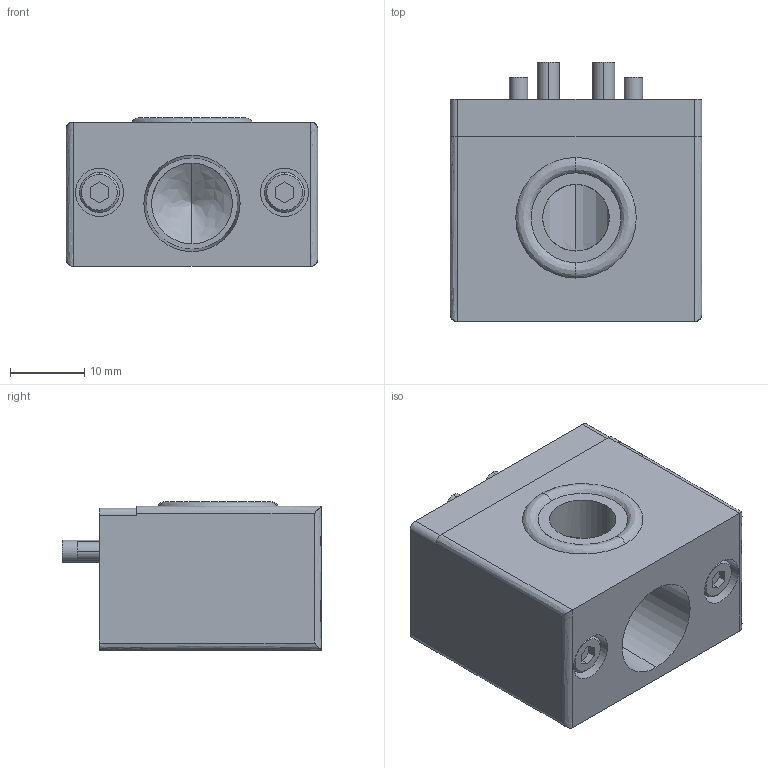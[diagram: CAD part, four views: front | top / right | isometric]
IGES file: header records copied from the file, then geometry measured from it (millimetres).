
Start section: 3D InterOp IGES (v. 2022 1.0.0), Spatial Corp. Copyright (c) 1999-2020.
Global section: file name: KHB-3HS-EP81_ver1.igs; native system: Spatial Corp.; preprocessor: 3D InterOp GENERIC/IGES 3.0; author: Noname; organization: Noname; date: 20260424.102719; units: millimetre
Bounding box: 34 x 35 x 20.1 mm (x, y, z)
Surface area: 7036.8 mm2 (no closed solid volume)
Topology: 0 solids, 0 shells, 192 faces, 884 edges, 882 vertices
Faces by surface type: extrusion 110, revolution 82
